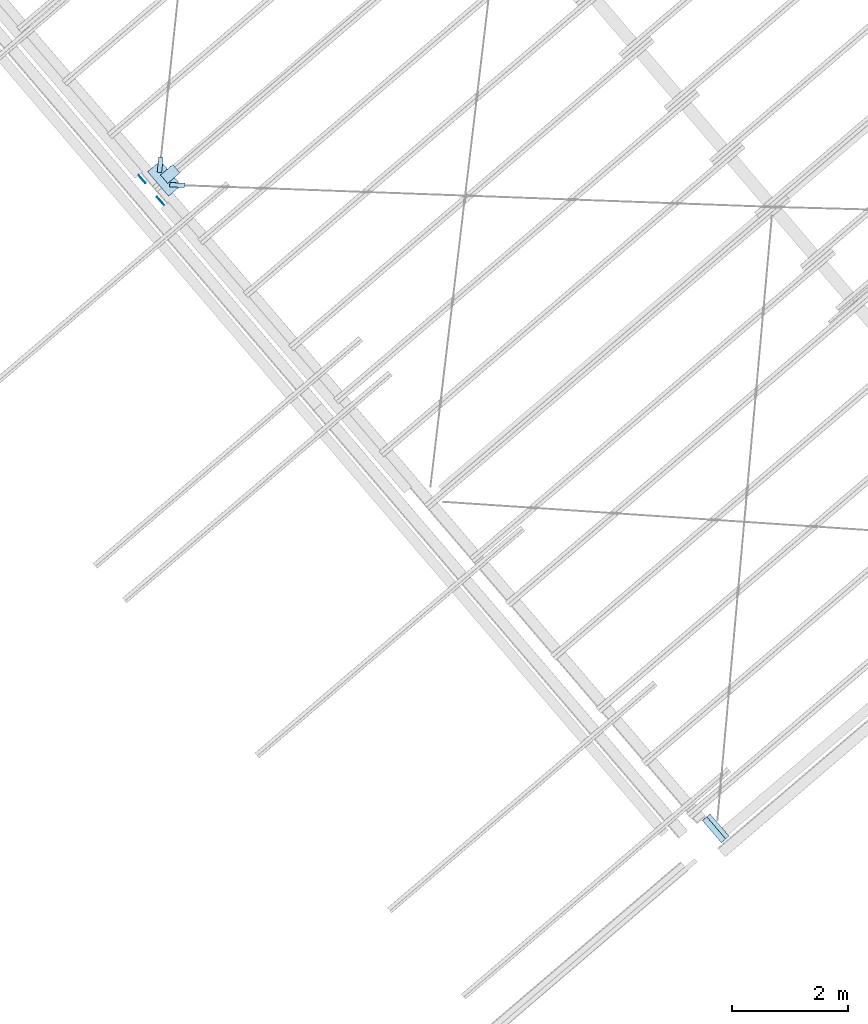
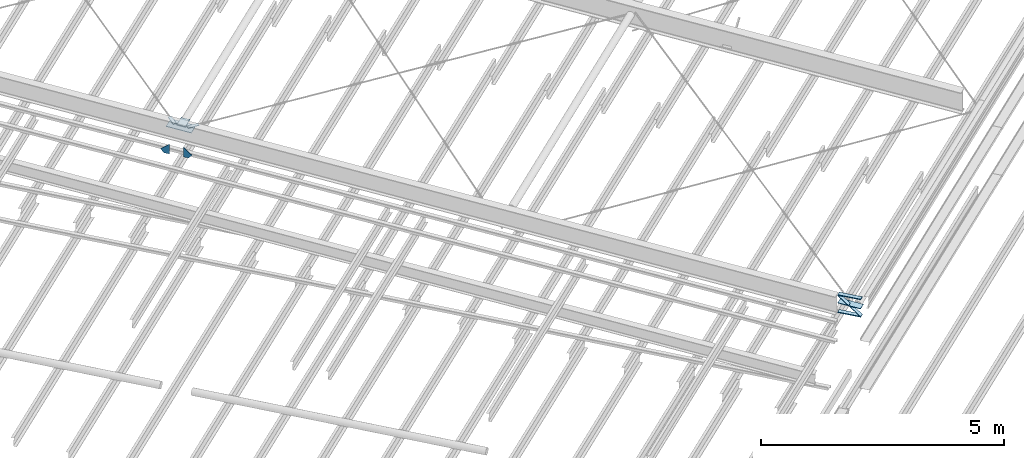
# One storey, part 24 of 25: 10 plates, 6 openings.
"""IFC2X3 building model written with IfcOpenShell, lengths in millimetres."""

from ifc_helpers import new_model, entity, si_unit, converted_unit, derived_unit, point, direction, frame, frame_2d, origin, origin_with_axes, place, context, project, spatial, polyline, circle_curve, line_curve, trimmed, segment, composite_curve, outline, extrude, material, element, save


model = new_model("IFC2X3")

# Units and contexts
model_context = context("Model", 3, precision=0.01, world=origin(), true_north=direction((6.123031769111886e-17, 1.0)))
ifc_project = project(units=[si_unit("LENGTHUNIT", "METRE", prefix="MILLI"), si_unit("AREAUNIT", "SQUARE_METRE"), si_unit("VOLUMEUNIT", "CUBIC_METRE"), converted_unit("PLANEANGLEUNIT", "DEGREE", entity("IfcRatioMeasure", 0.017453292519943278), si_unit("PLANEANGLEUNIT", "RADIAN"), dimensions=[0, 0, 0, 0, 0, 0, 0]), si_unit("MASSUNIT", "GRAM", prefix="KILO"), derived_unit("MASSDENSITYUNIT", [(si_unit("MASSUNIT", "GRAM", prefix="KILO"), 1), (si_unit("LENGTHUNIT", "METRE"), -3)]), derived_unit("MOMENTOFINERTIAUNIT", [(si_unit("LENGTHUNIT", "METRE"), 4)]), si_unit("TIMEUNIT", "SECOND"), si_unit("FREQUENCYUNIT", "HERTZ"), si_unit("THERMODYNAMICTEMPERATUREUNIT", "DEGREE_CELSIUS"), derived_unit("THERMALTRANSMITTANCEUNIT", [(si_unit("MASSUNIT", "GRAM", prefix="KILO"), 1), (si_unit("THERMODYNAMICTEMPERATUREUNIT", "KELVIN"), -1), (si_unit("TIMEUNIT", "SECOND"), -3)]), derived_unit("VOLUMETRICFLOWRATEUNIT", [(si_unit("LENGTHUNIT", "METRE"), 3), (si_unit("TIMEUNIT", "SECOND"), -1)]), derived_unit("MASSFLOWRATEUNIT", [(si_unit("MASSUNIT", "GRAM", prefix="KILO"), 1), (si_unit("TIMEUNIT", "SECOND"), -1)]), derived_unit("ROTATIONALFREQUENCYUNIT", [(si_unit("TIMEUNIT", "SECOND"), -1)]), si_unit("ELECTRICCURRENTUNIT", "AMPERE"), si_unit("ELECTRICVOLTAGEUNIT", "VOLT"), si_unit("POWERUNIT", "WATT"), si_unit("FORCEUNIT", "NEWTON", prefix="KILO"), si_unit("ILLUMINANCEUNIT", "LUX"), si_unit("LUMINOUSFLUXUNIT", "LUMEN"), si_unit("LUMINOUSINTENSITYUNIT", "CANDELA"), derived_unit("USERDEFINED", [(si_unit("MASSUNIT", "GRAM", prefix="KILO"), -1), (si_unit("LENGTHUNIT", "METRE"), -2), (si_unit("TIMEUNIT", "SECOND"), 3), (si_unit("LUMINOUSFLUXUNIT", "LUMEN"), 1)]), derived_unit("SOUNDPOWERUNIT", [(si_unit("MASSUNIT", "GRAM", prefix="KILO"), 1), (si_unit("LENGTHUNIT", "METRE"), 2), (si_unit("TIMEUNIT", "SECOND"), -3)]), derived_unit("LINEARVELOCITYUNIT", [(si_unit("LENGTHUNIT", "METRE"), 1), (si_unit("TIMEUNIT", "SECOND"), -1)]), si_unit("PRESSUREUNIT", "PASCAL"), derived_unit("USERDEFINED", [(si_unit("LENGTHUNIT", "METRE"), -2), (si_unit("MASSUNIT", "GRAM", prefix="KILO"), 1), (si_unit("TIMEUNIT", "SECOND"), -2)]), derived_unit("LINEARFORCEUNIT", [(si_unit("MASSUNIT", "GRAM", prefix="KILO"), 1), (si_unit("LENGTHUNIT", "METRE"), 1), (si_unit("TIMEUNIT", "SECOND"), -2), (si_unit("LENGTHUNIT", "METRE"), -1)]), derived_unit("PLANARFORCEUNIT", [(si_unit("MASSUNIT", "GRAM", prefix="KILO"), 1), (si_unit("LENGTHUNIT", "METRE"), 1), (si_unit("TIMEUNIT", "SECOND"), -2), (si_unit("LENGTHUNIT", "METRE"), -2)])], contexts=[model_context])

# Site, building, storey
site_placement = place(None, frame((962.4174930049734, -6014.433753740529, 0.0), z_axis=(0.0, 0.0, 1.0), x_axis=(0.7601792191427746, 0.649713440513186, 0.0)))
site = spatial("IfcSite", under=ifc_project, at=site_placement, Name="Default", CompositionType="ELEMENT")
building_placement = place(site_placement, origin())
building = spatial("IfcBuilding", under=site, at=building_placement, CompositionType="ELEMENT")
storey_placement = place(building_placement, frame((0.0, 0.0, 9200.0)))
storey = spatial("IfcBuildingStorey", under=building, at=storey_placement, Name="TOP OF CEILING", CompositionType="ELEMENT", Elevation=9200.000000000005)

# Plate
ifc_material = material(Name="Metal-Steel-Galvanised")
plate_1_placement = place(storey_placement, frame((154569.933946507, -11678.113053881, 2925.452727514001), z_axis=(0.0, -0.0697564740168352, 0.9975640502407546), x_axis=(1.0, 0.0, 0.0)))
element("IfcPlate", 1, at=plate_1_placement, inside=storey, material=ifc_material, Name="-", ObjectType="None", context=model_context, shape_type="SweptSolid", body=[
    extrude(outline(polyline([(224.726152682, 185.917519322), (291.499999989, 258.287335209), (291.499999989, 669.876211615), (224.994622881, 739.953632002), (4.249999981, 739.953632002), (4.249999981, 185.917519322), (224.726152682, 185.917519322)])), origin_with_axes(), (0.0, 0.0, 1.0), 12.0),
])

# Plate, openings
plate_2_placement = place(storey_placement, frame((154750.760204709, -25594.67527784, 1965.1945605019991), z_axis=(0.0, -0.0697564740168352, 0.9975640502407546), x_axis=(1.0, 0.0, 0.0)))
plate_2 = element("IfcPlate", 2, at=plate_2_placement, inside=storey, material=ifc_material, Name="-", ObjectType="None", context=model_context, shape_type="SweptSolid", body=[
    extrude(outline(polyline([(-174.4, 0.0), (-174.4, -501.8), (0.0, -501.8), (0.0, 0.0), (-174.4, 0.0)])), origin_with_axes(), (0.0, 0.0, 1.0), 12.0),
])
opening_1_placement = place(plate_2_placement, frame((0.0, 0.0, -0.01), z_axis=(0.0, 0.0, 1.0), x_axis=(1.0, 0.0, 0.0)))
element("IfcOpeningElement", 3, at=opening_1_placement, cuts=plate_2, ObjectType="Opening", context=model_context, shape_type="SweptSolid", body=[
    extrude(outline(composite_curve([segment(trimmed(line_curve((-174.4, 0.0), (0.0, 1.0), 14.0), [point((-174.4, 0.0))], [point((-174.4, -14.0))], True, "CARTESIAN"), True, "CONTINUOUS"), segment(trimmed(circle_curve(frame_2d((-160.4, -14.0), x_axis=(-1.0, 0.0)), 14.0), [point((-174.4, -14.0))], [point((-160.4, 0.0))], False, "CARTESIAN"), True, "CONTINUOUS"), segment(trimmed(line_curve((-160.4, 0.0), (1.0, 0.0), 14.0), [point((-160.4, 0.0))], [point((-174.4, 0.0))], True, "CARTESIAN"), True, "CONTINUOUS")], self_intersect="UNKNOWN")), origin(), (0.0, 0.0, 1.0), 12.02),
])
opening_2_placement = place(plate_2_placement, frame((0.0, 0.0, -0.01), z_axis=(0.0, 0.0, 1.0), x_axis=(1.0, 0.0, 0.0)))
element("IfcOpeningElement", 4, at=opening_2_placement, cuts=plate_2, ObjectType="Opening", context=model_context, shape_type="SweptSolid", body=[
    extrude(outline(composite_curve([segment(trimmed(line_curve((-174.4, -501.8), (-1.0, 0.0), 14.0), [point((-174.4, -501.8))], [point((-160.4, -501.8))], True, "CARTESIAN"), True, "CONTINUOUS"), segment(trimmed(circle_curve(frame_2d((-160.4, -487.8), x_axis=(-1.0, 0.0)), 14.0), [point((-160.4, -501.8))], [point((-174.4, -487.8))], False, "CARTESIAN"), True, "CONTINUOUS"), segment(trimmed(line_curve((-174.4, -487.8), (0.0, 1.0), 14.0), [point((-174.4, -487.8))], [point((-174.4, -501.8))], True, "CARTESIAN"), True, "CONTINUOUS")], self_intersect="UNKNOWN")), origin(), (0.0, 0.0, 1.0), 12.02),
])

# Plate
plate_3_placement = place(storey_placement, frame((154569.933946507, -11678.950131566, 2937.4234961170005), z_axis=(0.0, -0.0697564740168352, 0.9975640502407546), x_axis=(1.0, 0.0, 0.0)))
element("IfcPlate", 5, at=plate_3_placement, inside=storey, material=ifc_material, Name="-", ObjectType="None", context=model_context, shape_type="SweptSolid", body=[
    extrude(outline(polyline([(135.499999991, 363.615225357), (414.120004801, 363.615225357), (414.120004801, 553.615225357), (135.499999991, 553.615225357), (135.499999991, 363.615225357)])), origin_with_axes(), (0.0, 0.0, 1.0), 12.0),
])

# Plate, openings
plate_4_placement = place(storey_placement, frame((154750.760204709, -25596.028082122, 2159.762295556)))
plate_4 = element("IfcPlate", 6, at=plate_4_placement, inside=storey, material=ifc_material, Name="-", ObjectType="None", context=model_context, shape_type="SweptSolid", body=[
    extrude(outline(polyline([(-174.400000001, 0.0), (-174.400000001, -501.8), (-75.0, -501.8), (-75.0, 0.0), (-174.400000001, 0.0)])), origin_with_axes(), (0.0, 0.0, 1.0), 20.0),
])
opening_3_placement = place(plate_4_placement, frame((0.0, 0.0, -0.01), z_axis=(0.0, 0.0, 1.0), x_axis=(1.0, 0.0, 0.0)))
element("IfcOpeningElement", 7, at=opening_3_placement, cuts=plate_4, ObjectType="Opening", context=model_context, shape_type="SweptSolid", body=[
    extrude(outline(composite_curve([segment(trimmed(line_curve((-174.400000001, 0.0), (0.0, 1.0), 14.0), [point((-174.400000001, 0.0))], [point((-174.400000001, -14.0))], True, "CARTESIAN"), True, "CONTINUOUS"), segment(trimmed(circle_curve(frame_2d((-160.400000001, -14.0), x_axis=(-1.0, 0.0)), 14.0), [point((-174.400000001, -14.0))], [point((-160.400000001, 0.0))], False, "CARTESIAN"), True, "CONTINUOUS"), segment(trimmed(line_curve((-160.400000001, 0.0), (1.0, 0.0), 14.0), [point((-160.400000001, 0.0))], [point((-174.400000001, 0.0))], True, "CARTESIAN"), True, "CONTINUOUS")], self_intersect="UNKNOWN")), origin(), (0.0, 0.0, 1.0), 20.02),
])
opening_4_placement = place(plate_4_placement, frame((0.0, 0.0, -0.01), z_axis=(0.0, 0.0, 1.0), x_axis=(1.0, 0.0, 0.0)))
element("IfcOpeningElement", 8, at=opening_4_placement, cuts=plate_4, ObjectType="Opening", context=model_context, shape_type="SweptSolid", body=[
    extrude(outline(composite_curve([segment(trimmed(line_curve((-174.400000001, -501.8), (-1.0, 0.0), 14.0), [point((-174.400000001, -501.8))], [point((-160.400000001, -501.8))], True, "CARTESIAN"), True, "CONTINUOUS"), segment(trimmed(circle_curve(frame_2d((-160.400000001, -487.8), x_axis=(-1.0, 0.0)), 14.0), [point((-160.400000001, -501.8))], [point((-174.400000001, -487.8))], False, "CARTESIAN"), True, "CONTINUOUS"), segment(trimmed(line_curve((-174.400000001, -487.8), (0.0, 1.0), 14.0), [point((-174.400000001, -487.8))], [point((-174.400000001, -501.8))], True, "CARTESIAN"), True, "CONTINUOUS")], self_intersect="UNKNOWN")), origin(), (0.0, 0.0, 1.0), 20.02),
])

plate_5_placement = place(storey_placement, frame((154750.760204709, -25596.028082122, 1724.762295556)))
plate_5 = element("IfcPlate", 9, at=plate_5_placement, inside=storey, material=ifc_material, Name="-", ObjectType="None", context=model_context, shape_type="SweptSolid", body=[
    extrude(outline(polyline([(-174.400000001, 0.0), (-174.400000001, -501.8), (-75.0, -501.8), (-75.0, 0.0), (-174.400000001, 0.0)])), origin_with_axes(), (0.0, 0.0, 1.0), 20.0),
])
opening_5_placement = place(plate_5_placement, frame((0.0, 0.0, -0.01), z_axis=(0.0, 0.0, 1.0), x_axis=(1.0, 0.0, 0.0)))
element("IfcOpeningElement", 10, at=opening_5_placement, cuts=plate_5, ObjectType="Opening", context=model_context, shape_type="SweptSolid", body=[
    extrude(outline(composite_curve([segment(trimmed(line_curve((-174.400000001, 0.0), (0.0, 1.0), 14.0), [point((-174.400000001, 0.0))], [point((-174.400000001, -14.0))], True, "CARTESIAN"), True, "CONTINUOUS"), segment(trimmed(circle_curve(frame_2d((-160.400000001, -14.0), x_axis=(-1.0, 0.0)), 14.0), [point((-174.400000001, -14.0))], [point((-160.400000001, 0.0))], False, "CARTESIAN"), True, "CONTINUOUS"), segment(trimmed(line_curve((-160.400000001, 0.0), (1.0, 0.0), 14.0), [point((-160.400000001, 0.0))], [point((-174.400000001, 0.0))], True, "CARTESIAN"), True, "CONTINUOUS")], self_intersect="UNKNOWN")), origin(), (0.0, 0.0, 1.0), 20.02),
])
opening_6_placement = place(plate_5_placement, frame((0.0, 0.0, -0.01), z_axis=(0.0, 0.0, 1.0), x_axis=(1.0, 0.0, 0.0)))
element("IfcOpeningElement", 11, at=opening_6_placement, cuts=plate_5, ObjectType="Opening", context=model_context, shape_type="SweptSolid", body=[
    extrude(outline(composite_curve([segment(trimmed(line_curve((-174.400000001, -501.8), (-1.0, 0.0), 14.0), [point((-174.400000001, -501.8))], [point((-160.400000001, -501.8))], True, "CARTESIAN"), True, "CONTINUOUS"), segment(trimmed(circle_curve(frame_2d((-160.400000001, -487.8), x_axis=(-1.0, 0.0)), 14.0), [point((-160.400000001, -501.8))], [point((-174.400000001, -487.8))], False, "CARTESIAN"), True, "CONTINUOUS"), segment(trimmed(line_curve((-174.400000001, -487.8), (0.0, 1.0), 14.0), [point((-174.400000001, -487.8))], [point((-174.400000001, -501.8))], True, "CARTESIAN"), True, "CONTINUOUS")], self_intersect="UNKNOWN")), origin(), (0.0, 0.0, 1.0), 20.02),
])

# Plates
plate_6_placement = place(storey_placement, frame((154576.360204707, -25629.606300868, 2131.998493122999), z_axis=(0.0, 0.6372261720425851, -0.7706768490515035), x_axis=(-1.0, 0.0, 0.0)))
element("IfcPlate", 12, at=plate_6_placement, inside=storey, material=ifc_material, Name="-", ObjectType="None", context=model_context, shape_type="SweptSolid", body=[
    extrude(outline(polyline([(-99.400000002, 40.361649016), (-99.400000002, -609.776766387), (2e-09, -609.776766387), (2e-09, 40.361649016), (-99.400000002, 40.361649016)])), origin_with_axes(), (0.0, 0.0, 1.0), 10.0),
])
plate_7_placement = place(storey_placement, frame((154425.960204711, -11215.841981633, 2514.1982752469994), z_axis=(-1.0, 0.0, 0.0), x_axis=(0.0, -1.0, 0.0)))
element("IfcPlate", 13, at=plate_7_placement, inside=storey, material=ifc_material, Name="-", ObjectType="None", context=model_context, shape_type="SweptSolid", body=[
    extrude(outline(polyline([(-147.413899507, -85.51867193), (-147.413899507, 158.95981174), (-337.794903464, -0.363094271), (-266.531311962, -85.51867193), (-147.413899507, -85.51867193)])), origin_with_axes(), (0.0, 0.0, 1.0), 12.0),
])
plate_8_placement = place(storey_placement, frame((154423.960204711, -11375.428082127, 2514.1982752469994), z_axis=(-1.0, 0.0, 0.0), x_axis=(0.0, -1.0, 0.0)))
element("IfcPlate", 14, at=plate_8_placement, inside=storey, material=ifc_material, Name="-", ObjectType="None", context=model_context, shape_type="SweptSolid", body=[
    extrude(outline(polyline([(0.0, 156.119986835), (0.0, -87.630013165), (114.880152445, -87.630013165), (186.497989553, -4.445231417), (0.0, 156.119986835)])), origin_with_axes(), (0.0, 0.0, 1.0), 12.0),
])
plate_9_placement = place(storey_placement, frame((154569.933946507, -11678.950131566, 2937.4234961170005), z_axis=(0.0, -0.0697564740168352, 0.9975640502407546), x_axis=(1.0, 0.0, 0.0)))
element("IfcPlate", 15, at=plate_9_placement, inside=storey, material=ifc_material, Name="-", ObjectType="None", context=model_context, shape_type="SweptSolid", body=[
    extrude(outline(polyline([(123.931510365, 628.541518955), (176.447246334, 573.205131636), (363.860526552, 751.065429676), (311.482251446, 806.532271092), (123.931510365, 628.541518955)])), origin_with_axes(), (0.0, 0.0, 1.0), 12.0),
])
plate_10_placement = place(storey_placement, frame((154569.933946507, -10754.049791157, 3002.0988282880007), z_axis=(0.0, 0.0697564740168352, -0.9975640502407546), x_axis=(1.0, 0.0, 0.0)))
element("IfcPlate", 16, at=plate_10_placement, inside=storey, material=ifc_material, Name="-", ObjectType="None", context=model_context, shape_type="SweptSolid", body=[
    extrude(outline(polyline([(120.922913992, 631.711708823), (173.244841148, 576.579539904), (363.158830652, 751.808502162), (310.975678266, 807.068715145), (120.922913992, 631.711708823)])), origin_with_axes(), (0.0, 0.0, -1.0), 12.0),
])

save(model, "model.ifc")
